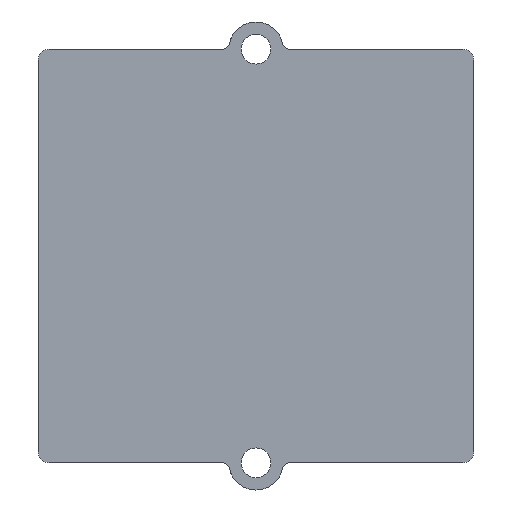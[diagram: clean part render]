
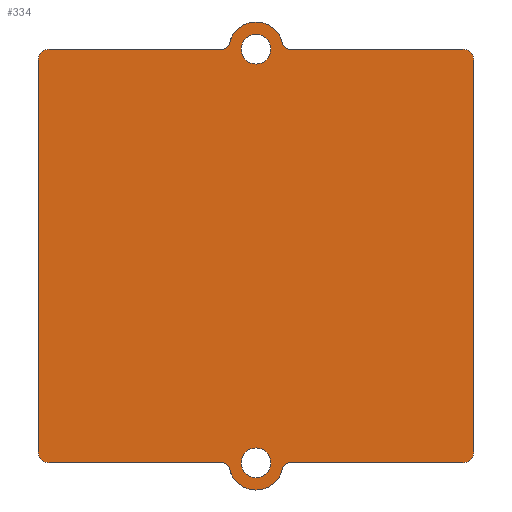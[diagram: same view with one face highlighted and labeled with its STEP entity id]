
A CAD part, front view. The second image highlights one B-rep face of the part: STEP entity #334.
In plain terms, the highlighted planar face has unit normal (0, -1, 0).
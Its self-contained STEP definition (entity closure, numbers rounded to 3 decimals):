
#334=ADVANCED_FACE('',(#3208,#3210,#3212),#3214,.F.);
#3208=FACE_BOUND('',#3209,.T.);
#3209=EDGE_LOOP('',(#6512,#6513,#6514,#6515,#6516,#6517,#6518,#6519,#6520,#6521,
#6522,#6523,#6524,#6525,#6526,#6527));
#3210=FACE_BOUND('',#3211,.T.);
#3211=EDGE_LOOP('',(#6528));
#3212=FACE_BOUND('',#3213,.T.);
#3213=EDGE_LOOP('',(#6529));
#3214=PLANE('',#3215);
#3215=AXIS2_PLACEMENT_3D('',#3216,#3217,#3218);
#3216=CARTESIAN_POINT('',(0.,0.,-28.5));
#3217=DIRECTION('',(0.,1.,0.));
#3218=DIRECTION('',(0.,0.,1.));
#6512=ORIENTED_EDGE('',*,*,#8334,.F.);
#6513=ORIENTED_EDGE('',*,*,#8335,.T.);
#6514=ORIENTED_EDGE('',*,*,#8336,.F.);
#6515=ORIENTED_EDGE('',*,*,#8337,.T.);
#6516=ORIENTED_EDGE('',*,*,#8338,.F.);
#6517=ORIENTED_EDGE('',*,*,#8339,.T.);
#6518=ORIENTED_EDGE('',*,*,#8340,.F.);
#6519=ORIENTED_EDGE('',*,*,#8341,.T.);
#6520=ORIENTED_EDGE('',*,*,#8342,.F.);
#6521=ORIENTED_EDGE('',*,*,#8343,.T.);
#6522=ORIENTED_EDGE('',*,*,#8344,.F.);
#6523=ORIENTED_EDGE('',*,*,#8345,.T.);
#6524=ORIENTED_EDGE('',*,*,#8346,.F.);
#6525=ORIENTED_EDGE('',*,*,#8347,.T.);
#6526=ORIENTED_EDGE('',*,*,#8348,.F.);
#6527=ORIENTED_EDGE('',*,*,#8349,.T.);
#6528=ORIENTED_EDGE('',*,*,#8333,.F.);
#6529=ORIENTED_EDGE('',*,*,#8331,.F.);
#8331=EDGE_CURVE('',#9223,#9223,#9224,.T.);
#8333=EDGE_CURVE('',#9227,#9227,#9228,.T.);
#8334=EDGE_CURVE('',#9229,#9230,#9231,.T.);
#8335=EDGE_CURVE('',#9229,#9232,#9233,.T.);
#8336=EDGE_CURVE('',#9234,#9232,#9235,.T.);
#8337=EDGE_CURVE('',#9234,#9236,#9237,.T.);
#8338=EDGE_CURVE('',#9238,#9236,#9239,.T.);
#8339=EDGE_CURVE('',#9238,#9240,#9241,.T.);
#8340=EDGE_CURVE('',#9242,#9240,#9243,.T.);
#8341=EDGE_CURVE('',#9242,#9244,#9245,.T.);
#8342=EDGE_CURVE('',#9246,#9244,#9247,.T.);
#8343=EDGE_CURVE('',#9246,#9248,#9249,.T.);
#8344=EDGE_CURVE('',#9250,#9248,#9251,.T.);
#8345=EDGE_CURVE('',#9250,#9252,#9253,.T.);
#8346=EDGE_CURVE('',#9254,#9252,#9255,.T.);
#8347=EDGE_CURVE('',#9254,#9256,#9257,.T.);
#8348=EDGE_CURVE('',#9258,#9256,#9259,.T.);
#8349=EDGE_CURVE('',#9258,#9230,#9260,.T.);
#9223=VERTEX_POINT('',#10683);
#9224=CIRCLE('',#10684,2.05);
#9227=VERTEX_POINT('',#10693);
#9228=CIRCLE('',#10694,2.05);
#9229=VERTEX_POINT('',#10698);
#9230=VERTEX_POINT('',#10699);
#9231=LINE('',#10700,#10701);
#9232=VERTEX_POINT('',#10703);
#9233=CIRCLE('',#10704,1.5);
#9234=VERTEX_POINT('',#10708);
#9235=LINE('',#10709,#10710);
#9236=VERTEX_POINT('',#10712);
#9237=CIRCLE('',#10713,1.5);
#9238=VERTEX_POINT('',#10717);
#9239=LINE('',#10718,#10719);
#9240=VERTEX_POINT('',#10721);
#9241=CIRCLE('',#10722,1.);
#9242=VERTEX_POINT('',#10726);
#9243=CIRCLE('',#10727,3.75);
#9244=VERTEX_POINT('',#10731);
#9245=CIRCLE('',#10732,1.);
#9246=VERTEX_POINT('',#10736);
#9247=LINE('',#10737,#10738);
#9248=VERTEX_POINT('',#10740);
#9249=CIRCLE('',#10741,1.5);
#9250=VERTEX_POINT('',#10745);
#9251=LINE('',#10746,#10747);
#9252=VERTEX_POINT('',#10749);
#9253=CIRCLE('',#10750,1.5);
#9254=VERTEX_POINT('',#10754);
#9255=LINE('',#10755,#10756);
#9256=VERTEX_POINT('',#10758);
#9257=CIRCLE('',#10759,1.);
#9258=VERTEX_POINT('',#10763);
#9259=CIRCLE('',#10764,3.75);
#9260=CIRCLE('',#10768,1.);
#10683=CARTESIAN_POINT('',(0.,0.,26.45));
#10684=AXIS2_PLACEMENT_3D('',#10685,#10686,#10687);
#10685=CARTESIAN_POINT('',(0.,0.,28.5));
#10686=DIRECTION('',(0.,-1.,0.));
#10687=DIRECTION('',(0.,0.,-1.));
#10693=CARTESIAN_POINT('',(0.,0.,-30.55));
#10694=AXIS2_PLACEMENT_3D('',#10695,#10696,#10697);
#10695=CARTESIAN_POINT('',(0.,0.,-28.5));
#10696=DIRECTION('',(0.,-1.,0.));
#10697=DIRECTION('',(0.,0.,-1.));
#10698=CARTESIAN_POINT('',(28.5,0.,-28.5));
#10699=CARTESIAN_POINT('',(4.644,0.,-28.5));
#10700=CARTESIAN_POINT('',(28.5,0.,-28.5));
#10701=VECTOR('',#10702,1.);
#10702=DIRECTION('',(-1.,0.,0.));
#10703=CARTESIAN_POINT('',(30.,0.,-27.));
#10704=AXIS2_PLACEMENT_3D('',#10705,#10706,#10707);
#10705=CARTESIAN_POINT('',(28.5,0.,-27.));
#10706=DIRECTION('',(0.,-1.,0.));
#10707=DIRECTION('',(0.,0.,-1.));
#10708=CARTESIAN_POINT('',(30.,0.,27.));
#10709=CARTESIAN_POINT('',(30.,0.,27.));
#10710=VECTOR('',#10711,1.);
#10711=DIRECTION('',(0.,0.,-1.));
#10712=CARTESIAN_POINT('',(28.5,0.,28.5));
#10713=AXIS2_PLACEMENT_3D('',#10714,#10715,#10716);
#10714=CARTESIAN_POINT('',(28.5,0.,27.));
#10715=DIRECTION('',(0.,-1.,0.));
#10716=DIRECTION('',(1.,0.,0.));
#10717=CARTESIAN_POINT('',(4.644,0.,28.5));
#10718=CARTESIAN_POINT('',(4.644,0.,28.5));
#10719=VECTOR('',#10720,1.);
#10720=DIRECTION('',(1.,0.,0.));
#10721=CARTESIAN_POINT('',(3.666,0.,29.289));
#10722=AXIS2_PLACEMENT_3D('',#10723,#10724,#10725);
#10723=CARTESIAN_POINT('',(4.644,0.,29.5));
#10724=DIRECTION('',(0.,1.,0.));
#10725=DIRECTION('',(0.,0.,-1.));
#10726=CARTESIAN_POINT('',(-3.666,0.,29.289));
#10727=AXIS2_PLACEMENT_3D('',#10728,#10729,#10730);
#10728=CARTESIAN_POINT('',(0.,0.,28.5));
#10729=DIRECTION('',(0.,1.,0.));
#10730=DIRECTION('',(-0.978,0.,0.211));
#10731=CARTESIAN_POINT('',(-4.644,0.,28.5));
#10732=AXIS2_PLACEMENT_3D('',#10733,#10734,#10735);
#10733=CARTESIAN_POINT('',(-4.644,0.,29.5));
#10734=DIRECTION('',(0.,1.,0.));
#10735=DIRECTION('',(0.978,0.,-0.211));
#10736=CARTESIAN_POINT('',(-28.5,0.,28.5));
#10737=CARTESIAN_POINT('',(-28.5,0.,28.5));
#10738=VECTOR('',#10739,1.);
#10739=DIRECTION('',(1.,0.,0.));
#10740=CARTESIAN_POINT('',(-30.,0.,27.));
#10741=AXIS2_PLACEMENT_3D('',#10742,#10743,#10744);
#10742=CARTESIAN_POINT('',(-28.5,0.,27.));
#10743=DIRECTION('',(0.,-1.,0.));
#10744=DIRECTION('',(0.,0.,1.));
#10745=CARTESIAN_POINT('',(-30.,0.,-27.));
#10746=CARTESIAN_POINT('',(-30.,0.,-27.));
#10747=VECTOR('',#10748,1.);
#10748=DIRECTION('',(0.,0.,1.));
#10749=CARTESIAN_POINT('',(-28.5,0.,-28.5));
#10750=AXIS2_PLACEMENT_3D('',#10751,#10752,#10753);
#10751=CARTESIAN_POINT('',(-28.5,0.,-27.));
#10752=DIRECTION('',(0.,-1.,0.));
#10753=DIRECTION('',(-1.,0.,0.));
#10754=CARTESIAN_POINT('',(-4.644,0.,-28.5));
#10755=CARTESIAN_POINT('',(-4.644,0.,-28.5));
#10756=VECTOR('',#10757,1.);
#10757=DIRECTION('',(-1.,0.,0.));
#10758=CARTESIAN_POINT('',(-3.666,0.,-29.289));
#10759=AXIS2_PLACEMENT_3D('',#10760,#10761,#10762);
#10760=CARTESIAN_POINT('',(-4.644,0.,-29.5));
#10761=DIRECTION('',(0.,1.,0.));
#10762=DIRECTION('',(0.,0.,1.));
#10763=CARTESIAN_POINT('',(3.666,0.,-29.289));
#10764=AXIS2_PLACEMENT_3D('',#10765,#10766,#10767);
#10765=CARTESIAN_POINT('',(0.,0.,-28.5));
#10766=DIRECTION('',(0.,1.,0.));
#10767=DIRECTION('',(0.978,0.,-0.211));
#10768=AXIS2_PLACEMENT_3D('',#10769,#10770,#10771);
#10769=CARTESIAN_POINT('',(4.644,0.,-29.5));
#10770=DIRECTION('',(0.,1.,0.));
#10771=DIRECTION('',(-0.978,0.,0.211));
